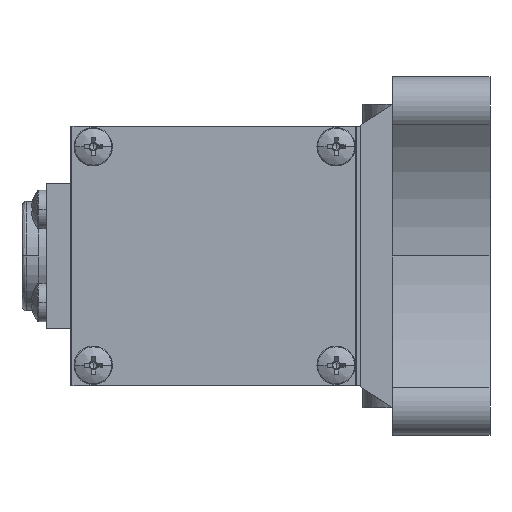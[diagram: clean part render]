
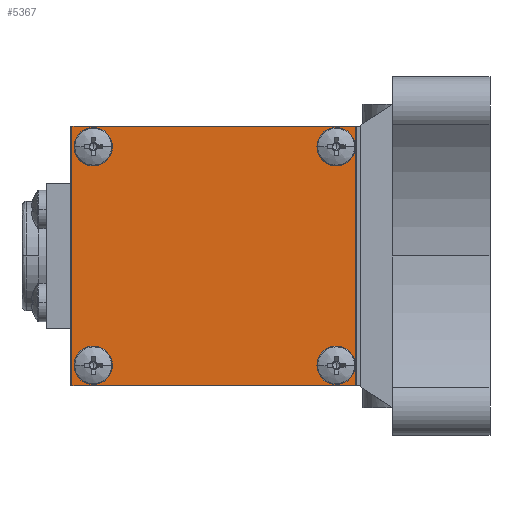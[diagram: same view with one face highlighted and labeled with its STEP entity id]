
A CAD part, left-side view. The second image highlights one B-rep face of the part: STEP entity #5367.
In plain terms, the highlighted planar face has unit normal (-1, 0, 0).
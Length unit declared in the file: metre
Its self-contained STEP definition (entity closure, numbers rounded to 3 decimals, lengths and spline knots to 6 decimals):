
#84 = CARTESIAN_POINT ( 'NONE',  ( -0.059, 0.006, -0.027 ) ) ;
#150 = DIRECTION ( 'NONE',  ( -1., 0., 0. ) ) ;
#271 = DIRECTION ( 'NONE',  ( 0., 0., 1. ) ) ;
#368 = EDGE_CURVE ( 'NONE', #11260, #16266, #1158, .T. ) ;
#509 = CIRCLE ( 'NONE', #8093, 0.0025 ) ;
#609 = DIRECTION ( 'NONE',  ( -1., 0., 0. ) ) ;
#634 = VERTEX_POINT ( 'NONE', #1019 ) ;
#642 = CARTESIAN_POINT ( 'NONE',  ( -0.059, 0.066, 0.0245 ) ) ;
#750 = EDGE_CURVE ( 'NONE', #634, #5570, #14363, .T. ) ;
#1019 = CARTESIAN_POINT ( 'NONE',  ( -0.059, 0.066, -0.0245 ) ) ;
#1063 = CIRCLE ( 'NONE', #1332, 0.0025 ) ;
#1158 = LINE ( 'NONE', #10557, #11389 ) ;
#1332 = AXIS2_PLACEMENT_3D ( 'NONE', #84, #150, #271 ) ;
#1390 = CARTESIAN_POINT ( 'NONE',  ( -0.059, 0.066, -0.027 ) ) ;
#1432 = DIRECTION ( 'NONE',  ( -1., 0., 0. ) ) ;
#1453 = DIRECTION ( 'NONE',  ( 0., 0., 1. ) ) ;
#1532 = EDGE_CURVE ( 'NONE', #4753, #11260, #15562, .T. ) ;
#1678 = VERTEX_POINT ( 'NONE', #642 ) ;
#1683 = AXIS2_PLACEMENT_3D ( 'NONE', #13950, #14218, #14297 ) ;
#1735 = VECTOR ( 'NONE', #16188, 1. ) ;
#1816 = EDGE_CURVE ( 'NONE', #11243, #8077, #13019, .T. ) ;
#2101 = VERTEX_POINT ( 'NONE', #4901 ) ;
#2131 = ORIENTED_EDGE ( 'NONE', *, *, #1816, .F. ) ;
#2350 = CARTESIAN_POINT ( 'NONE',  ( -0.059, 0.066, 0.027 ) ) ;
#2458 = CIRCLE ( 'NONE', #15639, 0.0025 ) ;
#2624 = CARTESIAN_POINT ( 'NONE',  ( -0.059, 0.006, 0.0245 ) ) ;
#2714 = EDGE_CURVE ( 'NONE', #14459, #1678, #9189, .T. ) ;
#2723 = CARTESIAN_POINT ( 'NONE',  ( -0.059, 0.006, -0.027 ) ) ;
#2777 = CARTESIAN_POINT ( 'NONE',  ( -0.059, 0.03625, -0.032 ) ) ;
#2944 = DIRECTION ( 'NONE',  ( 1., 0., 0. ) ) ;
#3041 = AXIS2_PLACEMENT_3D ( 'NONE', #2350, #11689, #3687 ) ;
#3079 = EDGE_CURVE ( 'NONE', #13386, #2101, #1063, .T. ) ;
#3082 = ORIENTED_EDGE ( 'NONE', *, *, #17064, .F. ) ;
#3466 = ORIENTED_EDGE ( 'NONE', *, *, #3079, .F. ) ;
#3687 = DIRECTION ( 'NONE',  ( 0., 0., 1. ) ) ;
#3853 = EDGE_LOOP ( 'NONE', ( #3082, #10345, #17211, #11068 ) ) ;
#3953 = CARTESIAN_POINT ( 'NONE',  ( -0.059, 0.07125, 0.032 ) ) ;
#4038 = DIRECTION ( 'NONE',  ( 0., 0., -1. ) ) ;
#4044 = DIRECTION ( 'NONE',  ( 0., 0., 1. ) ) ;
#4047 = DIRECTION ( 'NONE',  ( 0., 1., 0. ) ) ;
#4209 = CARTESIAN_POINT ( 'NONE',  ( -0.059, 0.07125, -0.032 ) ) ;
#4380 = LINE ( 'NONE', #2777, #7512 ) ;
#4556 = CARTESIAN_POINT ( 'NONE',  ( -0.059, 0.066, -0.027 ) ) ;
#4753 = VERTEX_POINT ( 'NONE', #4209 ) ;
#4777 = CARTESIAN_POINT ( 'NONE',  ( -0.059, 0.00125, -0.032 ) ) ;
#4844 = AXIS2_PLACEMENT_3D ( 'NONE', #1390, #1432, #1453 ) ;
#4901 = CARTESIAN_POINT ( 'NONE',  ( -0.059, 0.006, -0.0245 ) ) ;
#5214 = LINE ( 'NONE', #13442, #15561 ) ;
#5367 = ADVANCED_FACE ( 'NONE', ( #11770, #8198, #14972, #15392, #15813 ), #8231, .F. ) ;
#5570 = VERTEX_POINT ( 'NONE', #10654 ) ;
#5573 = EDGE_CURVE ( 'NONE', #2101, #13386, #13262, .T. ) ;
#5875 = DIRECTION ( 'NONE',  ( 0., 0., 1. ) ) ;
#6123 = EDGE_CURVE ( 'NONE', #1678, #14459, #6919, .T. ) ;
#6319 = EDGE_LOOP ( 'NONE', ( #6440, #2131 ) ) ;
#6440 = ORIENTED_EDGE ( 'NONE', *, *, #16605, .F. ) ;
#6746 = ORIENTED_EDGE ( 'NONE', *, *, #750, .F. ) ;
#6919 = CIRCLE ( 'NONE', #3041, 0.0025 ) ;
#7511 = CARTESIAN_POINT ( 'NONE',  ( -0.059, 0.00125, 0.032 ) ) ;
#7512 = VECTOR ( 'NONE', #4047, 1. ) ;
#7571 = EDGE_CURVE ( 'NONE', #17344, #4753, #4380, .T. ) ;
#8077 = VERTEX_POINT ( 'NONE', #15215 ) ;
#8093 = AXIS2_PLACEMENT_3D ( 'NONE', #8560, #609, #9923 ) ;
#8198 = FACE_BOUND ( 'NONE', #16346, .T. ) ;
#8231 = PLANE ( 'NONE',  #13017 ) ;
#8560 = CARTESIAN_POINT ( 'NONE',  ( -0.059, 0.006, 0.027 ) ) ;
#8899 = ORIENTED_EDGE ( 'NONE', *, *, #5573, .F. ) ;
#9189 = CIRCLE ( 'NONE', #1683, 0.0025 ) ;
#9914 = ORIENTED_EDGE ( 'NONE', *, *, #9981, .F. ) ;
#9923 = DIRECTION ( 'NONE',  ( 0., 0., 1. ) ) ;
#9981 = EDGE_CURVE ( 'NONE', #5570, #634, #2458, .T. ) ;
#10009 = CARTESIAN_POINT ( 'NONE',  ( -0.059, 0.006, 0.027 ) ) ;
#10105 = DIRECTION ( 'NONE',  ( -1., 0., 0. ) ) ;
#10305 = ORIENTED_EDGE ( 'NONE', *, *, #6123, .F. ) ;
#10345 = ORIENTED_EDGE ( 'NONE', *, *, #368, .F. ) ;
#10557 = CARTESIAN_POINT ( 'NONE',  ( -0.059, 0.03625, 0.032 ) ) ;
#10605 = DIRECTION ( 'NONE',  ( 0., -1., 0. ) ) ;
#10654 = CARTESIAN_POINT ( 'NONE',  ( -0.059, 0.066, -0.0295 ) ) ;
#10866 = AXIS2_PLACEMENT_3D ( 'NONE', #2723, #12071, #4044 ) ;
#10940 = CARTESIAN_POINT ( 'NONE',  ( -0.059, 0.00125, 0.032 ) ) ;
#11068 = ORIENTED_EDGE ( 'NONE', *, *, #7571, .F. ) ;
#11128 = CARTESIAN_POINT ( 'NONE',  ( -0.059, 0.006, -0.0295 ) ) ;
#11243 = VERTEX_POINT ( 'NONE', #2624 ) ;
#11260 = VERTEX_POINT ( 'NONE', #3953 ) ;
#11389 = VECTOR ( 'NONE', #10605, 1. ) ;
#11689 = DIRECTION ( 'NONE',  ( -1., 0., 0. ) ) ;
#11770 = FACE_BOUND ( 'NONE', #16253, .T. ) ;
#12071 = DIRECTION ( 'NONE',  ( -1., 0., 0. ) ) ;
#12303 = DIRECTION ( 'NONE',  ( 0., 0., -1. ) ) ;
#13017 = AXIS2_PLACEMENT_3D ( 'NONE', #10940, #2944, #12303 ) ;
#13019 = CIRCLE ( 'NONE', #15582, 0.0025 ) ;
#13118 = DIRECTION ( 'NONE',  ( 0., 0., 1. ) ) ;
#13262 = CIRCLE ( 'NONE', #10866, 0.0025 ) ;
#13386 = VERTEX_POINT ( 'NONE', #11128 ) ;
#13442 = CARTESIAN_POINT ( 'NONE',  ( -0.059, 0.00125, 0. ) ) ;
#13950 = CARTESIAN_POINT ( 'NONE',  ( -0.059, 0.066, 0.027 ) ) ;
#13979 = EDGE_LOOP ( 'NONE', ( #8899, #3466 ) ) ;
#13983 = DIRECTION ( 'NONE',  ( -1., 0., 0. ) ) ;
#14218 = DIRECTION ( 'NONE',  ( -1., 0., 0. ) ) ;
#14297 = DIRECTION ( 'NONE',  ( 0., 0., 1. ) ) ;
#14363 = CIRCLE ( 'NONE', #4844, 0.0025 ) ;
#14459 = VERTEX_POINT ( 'NONE', #14940 ) ;
#14940 = CARTESIAN_POINT ( 'NONE',  ( -0.059, 0.066, 0.0295 ) ) ;
#14972 = FACE_BOUND ( 'NONE', #13979, .T. ) ;
#15193 = ORIENTED_EDGE ( 'NONE', *, *, #2714, .F. ) ;
#15215 = CARTESIAN_POINT ( 'NONE',  ( -0.059, 0.006, 0.0295 ) ) ;
#15392 = FACE_BOUND ( 'NONE', #6319, .T. ) ;
#15561 = VECTOR ( 'NONE', #4038, 1. ) ;
#15562 = LINE ( 'NONE', #16200, #1735 ) ;
#15582 = AXIS2_PLACEMENT_3D ( 'NONE', #10009, #10105, #13118 ) ;
#15639 = AXIS2_PLACEMENT_3D ( 'NONE', #4556, #13983, #5875 ) ;
#15813 = FACE_OUTER_BOUND ( 'NONE', #3853, .T. ) ;
#16188 = DIRECTION ( 'NONE',  ( 0., 0., 1. ) ) ;
#16200 = CARTESIAN_POINT ( 'NONE',  ( -0.059, 0.07125, 0. ) ) ;
#16253 = EDGE_LOOP ( 'NONE', ( #6746, #9914 ) ) ;
#16266 = VERTEX_POINT ( 'NONE', #7511 ) ;
#16346 = EDGE_LOOP ( 'NONE', ( #15193, #10305 ) ) ;
#16605 = EDGE_CURVE ( 'NONE', #8077, #11243, #509, .T. ) ;
#17064 = EDGE_CURVE ( 'NONE', #16266, #17344, #5214, .T. ) ;
#17211 = ORIENTED_EDGE ( 'NONE', *, *, #1532, .F. ) ;
#17344 = VERTEX_POINT ( 'NONE', #4777 ) ;
